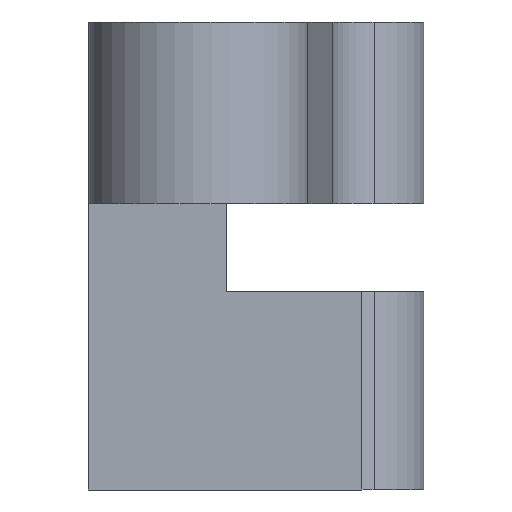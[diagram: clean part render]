
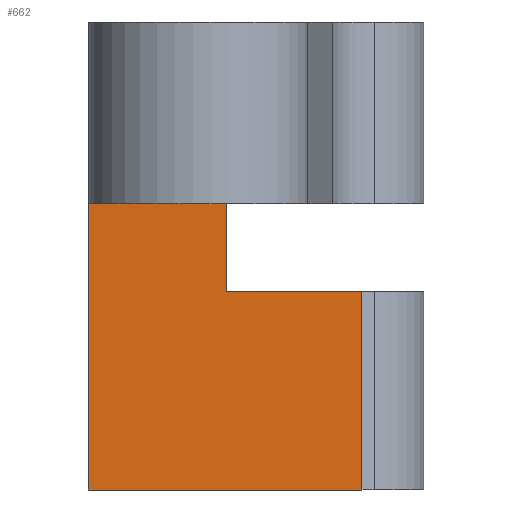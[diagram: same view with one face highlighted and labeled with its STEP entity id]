
A CAD part, left-side view. The second image highlights one B-rep face of the part: STEP entity #662.
In plain terms, the highlighted planar face has unit normal (-1, 0, 0).
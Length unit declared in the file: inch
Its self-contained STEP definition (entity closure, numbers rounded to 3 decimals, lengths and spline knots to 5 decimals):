
#23 = ORIENTED_EDGE ( 'NONE', *, *, #476, .F. ) ;
#24 = VERTEX_POINT ( 'NONE', #27 ) ;
#27 = CARTESIAN_POINT ( 'NONE',  ( -0.075, 0.1045, 0.18 ) ) ;
#54 = CARTESIAN_POINT ( 'NONE',  ( -0.075, -0.075, 0.26 ) ) ;
#71 = LINE ( 'NONE', #107, #393 ) ;
#102 = ORIENTED_EDGE ( 'NONE', *, *, #834, .T. ) ;
#107 = CARTESIAN_POINT ( 'NONE',  ( -0.075, 0.23, 0.26 ) ) ;
#128 = CARTESIAN_POINT ( 'NONE',  ( -0.075, 0.23, 0. ) ) ;
#152 = ORIENTED_EDGE ( 'NONE', *, *, #262, .F. ) ;
#156 = VERTEX_POINT ( 'NONE', #404 ) ;
#170 = DIRECTION ( 'NONE',  ( 0., 0., 1. ) ) ;
#174 = ORIENTED_EDGE ( 'NONE', *, *, #621, .F. ) ;
#250 = CARTESIAN_POINT ( 'NONE',  ( -0.075, 0.1045, 0.425 ) ) ;
#262 = EDGE_CURVE ( 'NONE', #653, #482, #442, .T. ) ;
#287 = VECTOR ( 'NONE', #485, 39.37008 ) ;
#306 = VERTEX_POINT ( 'NONE', #487 ) ;
#312 = DIRECTION ( 'NONE',  ( 0., 0., 1. ) ) ;
#319 = VECTOR ( 'NONE', #449, 39.37008 ) ;
#330 = VERTEX_POINT ( 'NONE', #778 ) ;
#341 = VECTOR ( 'NONE', #312, 39.37008 ) ;
#364 = AXIS2_PLACEMENT_3D ( 'NONE', #616, #619, #554 ) ;
#371 = FACE_OUTER_BOUND ( 'NONE', #437, .T. ) ;
#377 = VECTOR ( 'NONE', #170, 39.37008 ) ;
#383 = LINE ( 'NONE', #54, #685 ) ;
#393 = VECTOR ( 'NONE', #517, 39.37008 ) ;
#404 = CARTESIAN_POINT ( 'NONE',  ( -0.075, -0.01869, 0.18 ) ) ;
#417 = ORIENTED_EDGE ( 'NONE', *, *, #629, .T. ) ;
#437 = EDGE_LOOP ( 'NONE', ( #417, #23, #814, #102, #174, #152 ) ) ;
#442 = LINE ( 'NONE', #782, #287 ) ;
#449 = DIRECTION ( 'NONE',  ( 0., -1., 0. ) ) ;
#475 = CARTESIAN_POINT ( 'NONE',  ( -0.075, -0.01869, 0. ) ) ;
#476 = EDGE_CURVE ( 'NONE', #24, #156, #488, .T. ) ;
#482 = VERTEX_POINT ( 'NONE', #128 ) ;
#485 = DIRECTION ( 'NONE',  ( 0., 1., 0. ) ) ;
#487 = CARTESIAN_POINT ( 'NONE',  ( -0.075, 0.1045, 0.26 ) ) ;
#488 = LINE ( 'NONE', #847, #319 ) ;
#517 = DIRECTION ( 'NONE',  ( 0., 0., 1. ) ) ;
#528 = LINE ( 'NONE', #250, #341 ) ;
#554 = DIRECTION ( 'NONE',  ( 0., 0., 1. ) ) ;
#568 = DIRECTION ( 'NONE',  ( 0., 1., 0. ) ) ;
#570 = LINE ( 'NONE', #825, #377 ) ;
#616 = CARTESIAN_POINT ( 'NONE',  ( -0.075, -0.075, 0.26 ) ) ;
#619 = DIRECTION ( 'NONE',  ( -1., 0., 0. ) ) ;
#621 = EDGE_CURVE ( 'NONE', #482, #330, #71, .T. ) ;
#629 = EDGE_CURVE ( 'NONE', #653, #156, #570, .T. ) ;
#653 = VERTEX_POINT ( 'NONE', #475 ) ;
#662 = ADVANCED_FACE ( 'NONE', ( #371 ), #687, .T. ) ;
#685 = VECTOR ( 'NONE', #568, 39.37008 ) ;
#687 = PLANE ( 'NONE',  #364 ) ;
#778 = CARTESIAN_POINT ( 'NONE',  ( -0.075, 0.23, 0.26 ) ) ;
#782 = CARTESIAN_POINT ( 'NONE',  ( -0.075, -0.075, 0. ) ) ;
#814 = ORIENTED_EDGE ( 'NONE', *, *, #850, .T. ) ;
#825 = CARTESIAN_POINT ( 'NONE',  ( -0.075, -0.01869, 0.425 ) ) ;
#834 = EDGE_CURVE ( 'NONE', #306, #330, #383, .T. ) ;
#847 = CARTESIAN_POINT ( 'NONE',  ( -0.075, -0.075, 0.18 ) ) ;
#850 = EDGE_CURVE ( 'NONE', #24, #306, #528, .T. ) ;
